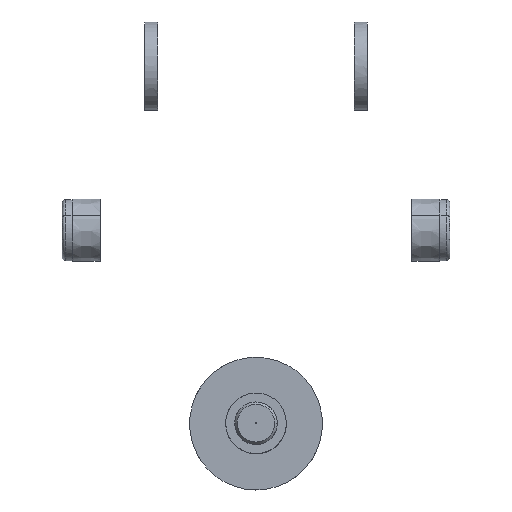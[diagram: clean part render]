
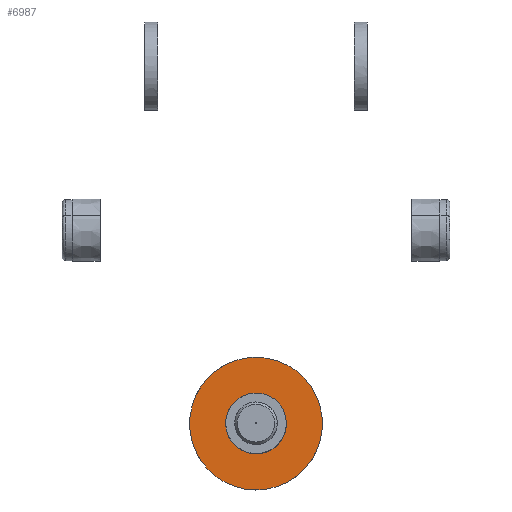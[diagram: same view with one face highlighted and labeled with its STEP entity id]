
A CAD part, top view. The second image highlights one B-rep face of the part: STEP entity #6987.
In plain terms, the highlighted planar face has unit normal (0, 0, 1).
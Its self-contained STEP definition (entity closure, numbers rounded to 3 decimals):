
#41 = AXIS2_PLACEMENT_3D ( 'NONE', #2023, #2025, #2026 ) ;
#215 = EDGE_CURVE ( 'NONE', #832, #669, #4544, .T. ) ;
#219 = EDGE_CURVE ( 'NONE', #546, #879, #4541, .T. ) ;
#222 = EDGE_CURVE ( 'NONE', #669, #832, #4540, .T. ) ;
#223 = EDGE_CURVE ( 'NONE', #879, #546, #4539, .T. ) ;
#546 = VERTEX_POINT ( 'NONE', #1296 ) ;
#669 = VERTEX_POINT ( 'NONE', #1318 ) ;
#832 = VERTEX_POINT ( 'NONE', #1351 ) ;
#879 = VERTEX_POINT ( 'NONE', #1381 ) ;
#1296 = CARTESIAN_POINT ( 'NONE',  ( -9.701, -76.758, -103.439 ) ) ;
#1318 = CARTESIAN_POINT ( 'NONE',  ( 4.428, -50.895, -103.439 ) ) ;
#1351 = CARTESIAN_POINT ( 'NONE',  ( -4.428, -67.105, -103.439 ) ) ;
#1381 = CARTESIAN_POINT ( 'NONE',  ( 9.701, -41.242, -103.439 ) ) ;
#2023 = CARTESIAN_POINT ( 'NONE',  ( -20.271, -38.729, -103.439 ) ) ;
#2024 = PLANE ( 'NONE',  #41 ) ;
#2025 = DIRECTION ( 'NONE',  ( 0., 0., 1. ) ) ;
#2026 = DIRECTION ( 'NONE',  ( 0., -1., 0. ) ) ;
#3880 = EDGE_LOOP ( 'NONE', ( #4430, #4374 ) ) ;
#3889 = EDGE_LOOP ( 'NONE', ( #4327, #4325 ) ) ;
#4290 = FACE_OUTER_BOUND ( 'NONE', #3889, .T. ) ;
#4294 = FACE_BOUND ( 'NONE', #3880, .T. ) ;
#4325 = ORIENTED_EDGE ( 'NONE', *, *, #223, .T. ) ;
#4327 = ORIENTED_EDGE ( 'NONE', *, *, #219, .T. ) ;
#4374 = ORIENTED_EDGE ( 'NONE', *, *, #222, .T. ) ;
#4430 = ORIENTED_EDGE ( 'NONE', *, *, #215, .T. ) ;
#4539 = B_SPLINE_CURVE_WITH_KNOTS ( 'NONE', 3,
 ( #5568, #5548, #5547, #5546, #5545, #5544, #5543, #5542, #5541, #5540, #5539, #5538, #5537, #5536, #5535, #5534, #5533, #5532, #5531 ),
 .UNSPECIFIED., .F., .F.,
 ( 4, 3, 3, 3, 3, 3, 4 ),
 ( -0.058, -0.048, -0.037, -0.026, -0.016, -0.005, 0.005 ),
 .UNSPECIFIED. ) ;
#4540 = B_SPLINE_CURVE_WITH_KNOTS ( 'NONE', 3,
 ( #5590, #5567, #5566, #5565, #5564, #5563, #5562, #5561, #5560, #5559, #5558, #5557, #5556, #5555, #5554, #5553, #5552, #5551, #5550 ),
 .UNSPECIFIED., .F., .F.,
 ( 4, 3, 3, 3, 3, 3, 4 ),
 ( -0.027, -0.022, -0.017, -0.012, -0.007, -0.002, 0.002 ),
 .UNSPECIFIED. ) ;
#4541 = B_SPLINE_CURVE_WITH_KNOTS ( 'NONE', 3,
 ( #5628, #5589, #5588, #5587, #5586, #5585, #5584, #5583, #5582, #5581, #5580, #5579, #5578, #5577, #5576, #5575, #5574, #5573, #5572 ),
 .UNSPECIFIED., .F., .F.,
 ( 4, 3, 3, 3, 3, 3, 4 ),
 ( -0.058, -0.048, -0.037, -0.026, -0.016, -0.005, 0.005 ),
 .UNSPECIFIED. ) ;
#4544 = B_SPLINE_CURVE_WITH_KNOTS ( 'NONE', 3,
 ( #5672, #5647, #5646, #5645, #5644, #5643, #5642, #5641, #5640, #5639, #5638, #5637, #5636, #5635, #5634, #5633, #5632, #5631, #5630 ),
 .UNSPECIFIED., .F., .F.,
 ( 4, 3, 3, 3, 3, 3, 4 ),
 ( -0.027, -0.022, -0.017, -0.012, -0.007, -0.002, 0.002 ),
 .UNSPECIFIED. ) ;
#5531 = CARTESIAN_POINT ( 'NONE',  ( -9.701, -76.758, -103.439 ) ) ;
#5532 = CARTESIAN_POINT ( 'NONE',  ( -12.819, -75.055, -103.439 ) ) ;
#5533 = CARTESIAN_POINT ( 'NONE',  ( -15.433, -72.562, -103.439 ) ) ;
#5534 = CARTESIAN_POINT ( 'NONE',  ( -17.281, -69.529, -103.439 ) ) ;
#5535 = CARTESIAN_POINT ( 'NONE',  ( -19.129, -66.495, -103.439 ) ) ;
#5536 = CARTESIAN_POINT ( 'NONE',  ( -20.146, -63.029, -103.439 ) ) ;
#5537 = CARTESIAN_POINT ( 'NONE',  ( -20.23, -59.477, -103.439 ) ) ;
#5538 = CARTESIAN_POINT ( 'NONE',  ( -20.314, -55.926, -103.439 ) ) ;
#5539 = CARTESIAN_POINT ( 'NONE',  ( -19.461, -52.416, -103.439 ) ) ;
#5540 = CARTESIAN_POINT ( 'NONE',  ( -17.758, -49.299, -103.439 ) ) ;
#5541 = CARTESIAN_POINT ( 'NONE',  ( -16.055, -46.181, -103.439 ) ) ;
#5542 = CARTESIAN_POINT ( 'NONE',  ( -13.562, -43.567, -103.439 ) ) ;
#5543 = CARTESIAN_POINT ( 'NONE',  ( -10.529, -41.719, -103.439 ) ) ;
#5544 = CARTESIAN_POINT ( 'NONE',  ( -7.495, -39.871, -103.439 ) ) ;
#5545 = CARTESIAN_POINT ( 'NONE',  ( -4.029, -38.854, -103.439 ) ) ;
#5546 = CARTESIAN_POINT ( 'NONE',  ( -0.477, -38.77, -103.439 ) ) ;
#5547 = CARTESIAN_POINT ( 'NONE',  ( 3.074, -38.686, -103.439 ) ) ;
#5548 = CARTESIAN_POINT ( 'NONE',  ( 6.584, -39.539, -103.439 ) ) ;
#5550 = CARTESIAN_POINT ( 'NONE',  ( -4.428, -67.105, -103.439 ) ) ;
#5551 = CARTESIAN_POINT ( 'NONE',  ( -3.005, -67.882, -103.439 ) ) ;
#5552 = CARTESIAN_POINT ( 'NONE',  ( -1.403, -68.271, -103.439 ) ) ;
#5553 = CARTESIAN_POINT ( 'NONE',  ( 0.218, -68.233, -103.439 ) ) ;
#5554 = CARTESIAN_POINT ( 'NONE',  ( 1.839, -68.195, -103.439 ) ) ;
#5555 = CARTESIAN_POINT ( 'NONE',  ( 3.421, -67.731, -103.439 ) ) ;
#5556 = CARTESIAN_POINT ( 'NONE',  ( 4.805, -66.887, -103.439 ) ) ;
#5557 = CARTESIAN_POINT ( 'NONE',  ( 6.19, -66.044, -103.439 ) ) ;
#5558 = CARTESIAN_POINT ( 'NONE',  ( 7.328, -64.851, -103.439 ) ) ;
#5559 = CARTESIAN_POINT ( 'NONE',  ( 8.105, -63.428, -103.439 ) ) ;
#5560 = CARTESIAN_POINT ( 'NONE',  ( 8.882, -62.005, -103.439 ) ) ;
#5561 = CARTESIAN_POINT ( 'NONE',  ( 9.271, -60.403, -103.439 ) ) ;
#5562 = CARTESIAN_POINT ( 'NONE',  ( 9.233, -58.782, -103.439 ) ) ;
#5563 = CARTESIAN_POINT ( 'NONE',  ( 9.195, -57.161, -103.439 ) ) ;
#5564 = CARTESIAN_POINT ( 'NONE',  ( 8.731, -55.579, -103.439 ) ) ;
#5565 = CARTESIAN_POINT ( 'NONE',  ( 7.887, -54.195, -103.439 ) ) ;
#5566 = CARTESIAN_POINT ( 'NONE',  ( 7.044, -52.81, -103.439 ) ) ;
#5567 = CARTESIAN_POINT ( 'NONE',  ( 5.851, -51.672, -103.439 ) ) ;
#5568 = CARTESIAN_POINT ( 'NONE',  ( 9.701, -41.242, -103.439 ) ) ;
#5572 = CARTESIAN_POINT ( 'NONE',  ( 9.701, -41.242, -103.439 ) ) ;
#5573 = CARTESIAN_POINT ( 'NONE',  ( 12.819, -42.945, -103.439 ) ) ;
#5574 = CARTESIAN_POINT ( 'NONE',  ( 15.433, -45.438, -103.439 ) ) ;
#5575 = CARTESIAN_POINT ( 'NONE',  ( 17.281, -48.471, -103.439 ) ) ;
#5576 = CARTESIAN_POINT ( 'NONE',  ( 19.129, -51.505, -103.439 ) ) ;
#5577 = CARTESIAN_POINT ( 'NONE',  ( 20.146, -54.971, -103.439 ) ) ;
#5578 = CARTESIAN_POINT ( 'NONE',  ( 20.23, -58.523, -103.439 ) ) ;
#5579 = CARTESIAN_POINT ( 'NONE',  ( 20.314, -62.074, -103.439 ) ) ;
#5580 = CARTESIAN_POINT ( 'NONE',  ( 19.461, -65.584, -103.439 ) ) ;
#5581 = CARTESIAN_POINT ( 'NONE',  ( 17.758, -68.701, -103.439 ) ) ;
#5582 = CARTESIAN_POINT ( 'NONE',  ( 16.055, -71.819, -103.439 ) ) ;
#5583 = CARTESIAN_POINT ( 'NONE',  ( 13.562, -74.433, -103.439 ) ) ;
#5584 = CARTESIAN_POINT ( 'NONE',  ( 10.529, -76.281, -103.439 ) ) ;
#5585 = CARTESIAN_POINT ( 'NONE',  ( 7.495, -78.129, -103.439 ) ) ;
#5586 = CARTESIAN_POINT ( 'NONE',  ( 4.029, -79.146, -103.439 ) ) ;
#5587 = CARTESIAN_POINT ( 'NONE',  ( 0.477, -79.23, -103.439 ) ) ;
#5588 = CARTESIAN_POINT ( 'NONE',  ( -3.074, -79.314, -103.439 ) ) ;
#5589 = CARTESIAN_POINT ( 'NONE',  ( -6.584, -78.461, -103.439 ) ) ;
#5590 = CARTESIAN_POINT ( 'NONE',  ( 4.428, -50.895, -103.439 ) ) ;
#5628 = CARTESIAN_POINT ( 'NONE',  ( -9.701, -76.758, -103.439 ) ) ;
#5630 = CARTESIAN_POINT ( 'NONE',  ( 4.428, -50.895, -103.439 ) ) ;
#5631 = CARTESIAN_POINT ( 'NONE',  ( 3.005, -50.118, -103.439 ) ) ;
#5632 = CARTESIAN_POINT ( 'NONE',  ( 1.403, -49.729, -103.439 ) ) ;
#5633 = CARTESIAN_POINT ( 'NONE',  ( -0.218, -49.767, -103.439 ) ) ;
#5634 = CARTESIAN_POINT ( 'NONE',  ( -1.839, -49.805, -103.439 ) ) ;
#5635 = CARTESIAN_POINT ( 'NONE',  ( -3.421, -50.269, -103.439 ) ) ;
#5636 = CARTESIAN_POINT ( 'NONE',  ( -4.805, -51.113, -103.439 ) ) ;
#5637 = CARTESIAN_POINT ( 'NONE',  ( -6.19, -51.956, -103.439 ) ) ;
#5638 = CARTESIAN_POINT ( 'NONE',  ( -7.328, -53.149, -103.439 ) ) ;
#5639 = CARTESIAN_POINT ( 'NONE',  ( -8.105, -54.572, -103.439 ) ) ;
#5640 = CARTESIAN_POINT ( 'NONE',  ( -8.882, -55.995, -103.439 ) ) ;
#5641 = CARTESIAN_POINT ( 'NONE',  ( -9.271, -57.597, -103.439 ) ) ;
#5642 = CARTESIAN_POINT ( 'NONE',  ( -9.233, -59.218, -103.439 ) ) ;
#5643 = CARTESIAN_POINT ( 'NONE',  ( -9.195, -60.839, -103.439 ) ) ;
#5644 = CARTESIAN_POINT ( 'NONE',  ( -8.731, -62.421, -103.439 ) ) ;
#5645 = CARTESIAN_POINT ( 'NONE',  ( -7.887, -63.805, -103.439 ) ) ;
#5646 = CARTESIAN_POINT ( 'NONE',  ( -7.044, -65.19, -103.439 ) ) ;
#5647 = CARTESIAN_POINT ( 'NONE',  ( -5.851, -66.328, -103.439 ) ) ;
#5672 = CARTESIAN_POINT ( 'NONE',  ( -4.428, -67.105, -103.439 ) ) ;
#6987 = ADVANCED_FACE ( 'NONE', ( #4294, #4290 ), #2024, .T. ) ;
